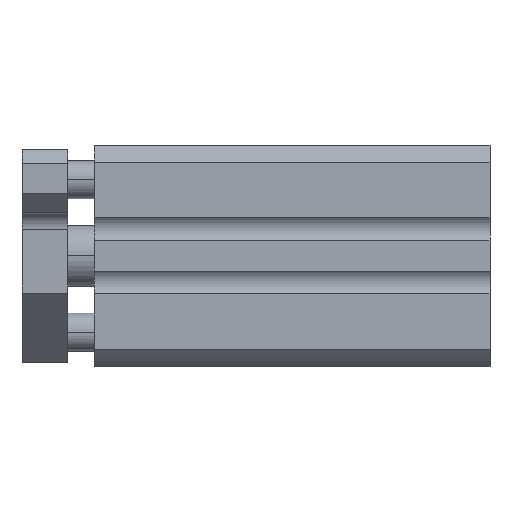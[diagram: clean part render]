
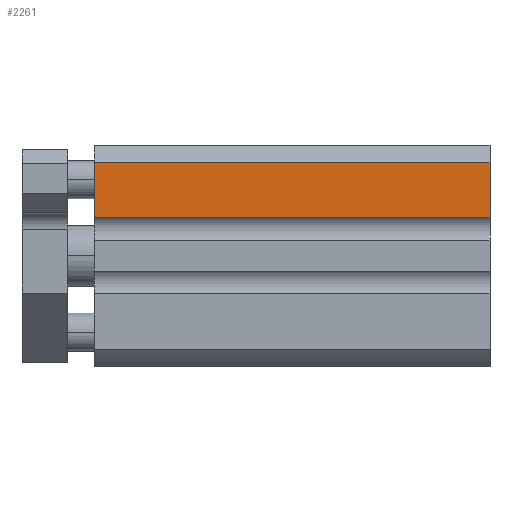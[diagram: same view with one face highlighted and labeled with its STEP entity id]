
A CAD part, top view. The second image highlights one B-rep face of the part: STEP entity #2261.
In plain terms, the highlighted planar face has unit normal (0, 0, 1).
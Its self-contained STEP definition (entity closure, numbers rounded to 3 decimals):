
#39 = VECTOR ( 'NONE', #2977, 1000. ) ;
#40 = PLANE ( 'NONE',  #2372 ) ;
#109 = VECTOR ( 'NONE', #3492, 1000. ) ;
#228 = EDGE_CURVE ( 'NONE', #3230, #3949, #3847, .T. ) ;
#233 = VERTEX_POINT ( 'NONE', #2937 ) ;
#249 = EDGE_LOOP ( 'NONE', ( #851, #266, #3071, #4075 ) ) ;
#266 = ORIENTED_EDGE ( 'NONE', *, *, #228, .F. ) ;
#749 = EDGE_CURVE ( 'NONE', #2740, #3949, #1704, .T. ) ;
#814 = CARTESIAN_POINT ( 'NONE',  ( 52., 12.278, 14.5 ) ) ;
#851 = ORIENTED_EDGE ( 'NONE', *, *, #749, .T. ) ;
#1035 = DIRECTION ( 'NONE',  ( 0., 0., -1. ) ) ;
#1315 = FACE_OUTER_BOUND ( 'NONE', #249, .T. ) ;
#1704 = LINE ( 'NONE', #3041, #39 ) ;
#1713 = EDGE_CURVE ( 'NONE', #233, #2740, #2637, .T. ) ;
#1816 = VECTOR ( 'NONE', #2023, 1000. ) ;
#1968 = CARTESIAN_POINT ( 'NONE',  ( 0., 5., 14.5 ) ) ;
#2023 = DIRECTION ( 'NONE',  ( 0., -1., 0. ) ) ;
#2104 = VECTOR ( 'NONE', #4175, 1000. ) ;
#2261 = ADVANCED_FACE ( 'NONE', ( #1315 ), #40, .F. ) ;
#2359 = DIRECTION ( 'NONE',  ( 0., -1., 0. ) ) ;
#2372 = AXIS2_PLACEMENT_3D ( 'NONE', #4024, #1035, #2359 ) ;
#2637 = LINE ( 'NONE', #814, #109 ) ;
#2740 = VERTEX_POINT ( 'NONE', #3117 ) ;
#2937 = CARTESIAN_POINT ( 'NONE',  ( 52., 12.278, 14.5 ) ) ;
#2977 = DIRECTION ( 'NONE',  ( 0., -1., 0. ) ) ;
#3041 = CARTESIAN_POINT ( 'NONE',  ( 0., 12.278, 14.5 ) ) ;
#3071 = ORIENTED_EDGE ( 'NONE', *, *, #4159, .F. ) ;
#3117 = CARTESIAN_POINT ( 'NONE',  ( 0., 12.278, 14.5 ) ) ;
#3163 = CARTESIAN_POINT ( 'NONE',  ( 52., 5., 14.5 ) ) ;
#3230 = VERTEX_POINT ( 'NONE', #3163 ) ;
#3492 = DIRECTION ( 'NONE',  ( -1., 0., 0. ) ) ;
#3589 = CARTESIAN_POINT ( 'NONE',  ( 52., 5., 14.5 ) ) ;
#3598 = CARTESIAN_POINT ( 'NONE',  ( 52., 12.278, 14.5 ) ) ;
#3847 = LINE ( 'NONE', #3589, #2104 ) ;
#3923 = LINE ( 'NONE', #3598, #1816 ) ;
#3949 = VERTEX_POINT ( 'NONE', #1968 ) ;
#4024 = CARTESIAN_POINT ( 'NONE',  ( 52., 12.278, 14.5 ) ) ;
#4075 = ORIENTED_EDGE ( 'NONE', *, *, #1713, .T. ) ;
#4159 = EDGE_CURVE ( 'NONE', #233, #3230, #3923, .T. ) ;
#4175 = DIRECTION ( 'NONE',  ( -1., 0., 0. ) ) ;
